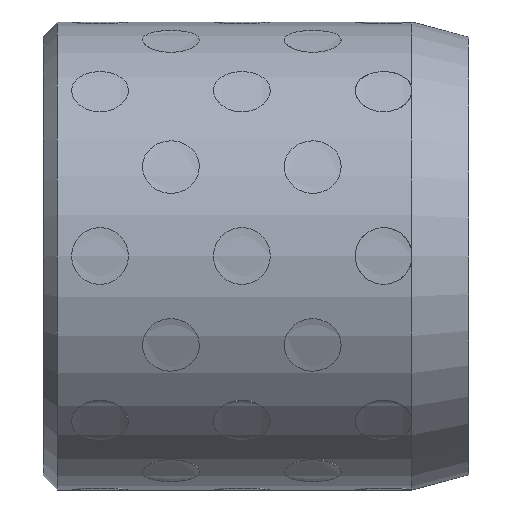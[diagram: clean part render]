
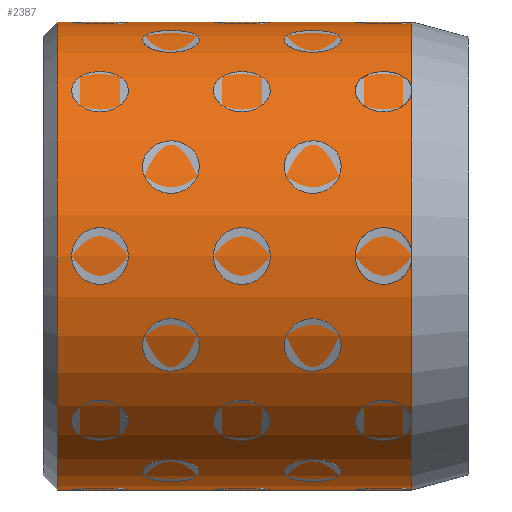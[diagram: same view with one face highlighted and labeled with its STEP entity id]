
A CAD part, left-side view. The second image highlights one B-rep face of the part: STEP entity #2387.
In plain terms, the highlighted cylindrical face has radius 16.5 mm (diameter 33 mm), a full revolution.
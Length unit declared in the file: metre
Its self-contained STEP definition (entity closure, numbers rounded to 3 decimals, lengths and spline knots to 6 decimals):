
#2387 = ADVANCED_FACE( '', ( #2553, #2554 ), #2555, .T. );
#2553 = FACE_OUTER_BOUND( '', #2913, .T. );
#2554 = FACE_OUTER_BOUND( '', #2914, .T. );
#2555 = CYLINDRICAL_SURFACE( '', #2915, 0.0165 );
#2913 = EDGE_LOOP( '', ( #3285 ) );
#2914 = EDGE_LOOP( '', ( #3286 ) );
#2915 = AXIS2_PLACEMENT_3D( '', #3287, #3288, #3289 );
#3285 = ORIENTED_EDGE( '', *, *, #3926, .T. );
#3286 = ORIENTED_EDGE( '', *, *, #3925, .F. );
#3287 = CARTESIAN_POINT( '', ( 0., 0., 0. ) );
#3288 = DIRECTION( '', ( 0., 1., 0. ) );
#3289 = DIRECTION( '', ( 0., 0., -1. ) );
#3925 = EDGE_CURVE( '', #4035, #4035, #4036, .T. );
#3926 = EDGE_CURVE( '', #4037, #4037, #4038, .T. );
#4035 = VERTEX_POINT( '', #4243 );
#4036 = CIRCLE( '', #4244, 0.0165 );
#4037 = VERTEX_POINT( '', #4245 );
#4038 = CIRCLE( '', #4246, 0.0165 );
#4243 = CARTESIAN_POINT( '', ( 0., 0.004, -0.0165 ) );
#4244 = AXIS2_PLACEMENT_3D( '', #9641, #9642, #9643 );
#4245 = CARTESIAN_POINT( '', ( 0., 0.029, -0.0165 ) );
#4246 = AXIS2_PLACEMENT_3D( '', #9644, #9645, #9646 );
#9641 = CARTESIAN_POINT( '', ( 0., 0.004, 0. ) );
#9642 = DIRECTION( '', ( 0., -1., 0. ) );
#9643 = DIRECTION( '', ( 0., 0., -1. ) );
#9644 = CARTESIAN_POINT( '', ( 0., 0.029, 0. ) );
#9645 = DIRECTION( '', ( 0., -1., 0. ) );
#9646 = DIRECTION( '', ( 0., 0., -1. ) );
